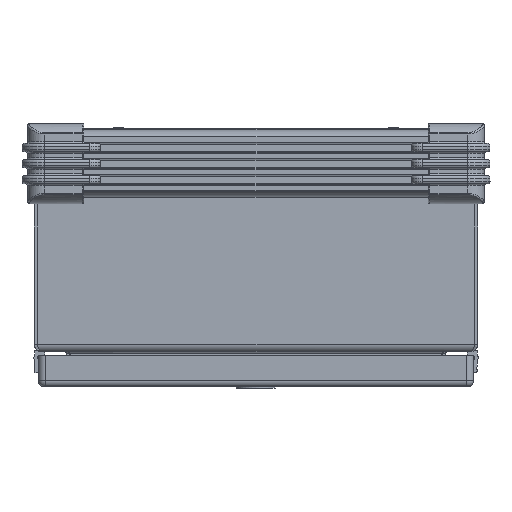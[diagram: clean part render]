
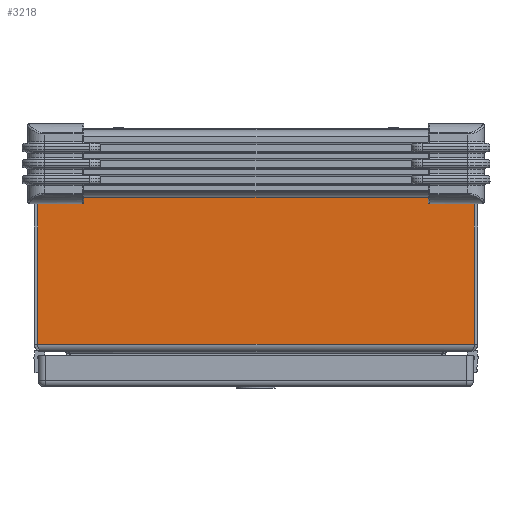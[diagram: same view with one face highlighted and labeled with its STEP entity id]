
A CAD part, left-side view. The second image highlights one B-rep face of the part: STEP entity #3218.
In plain terms, the highlighted planar face has unit normal (-1, 0, 0) as drawn and (1, 0, 0) by its records, which use the part's own axes.
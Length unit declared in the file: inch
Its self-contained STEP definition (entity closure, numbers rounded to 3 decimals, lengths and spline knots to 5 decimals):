
#373 = ORIENTED_EDGE ( 'NONE', *, *, #15365, .F. ) ;
#776 = DIRECTION ( 'NONE',  ( 0., 0., -1. ) ) ;
#1758 = LINE ( 'NONE', #28057, #6540 ) ;
#2155 = DIRECTION ( 'NONE',  ( 0., 0., -1. ) ) ;
#2321 = CARTESIAN_POINT ( 'NONE',  ( 6.8905, 2.8535, 0.553 ) ) ;
#2351 = ORIENTED_EDGE ( 'NONE', *, *, #33614, .F. ) ;
#2878 = DIRECTION ( 'NONE',  ( 0., 0., -1. ) ) ;
#3041 = DIRECTION ( 'NONE',  ( 1., 0., 0. ) ) ;
#3218 = ADVANCED_FACE ( 'NONE', ( #43581, #28547, #19864 ), #38206, .T. ) ;
#4603 = ORIENTED_EDGE ( 'NONE', *, *, #20015, .F. ) ;
#5003 = AXIS2_PLACEMENT_3D ( 'NONE', #17462, #3041, #2155 ) ;
#5142 = VERTEX_POINT ( 'NONE', #37996 ) ;
#5578 = DIRECTION ( 'NONE',  ( 0., 1., 0. ) ) ;
#5622 = VECTOR ( 'NONE', #5578, 39.37008 ) ;
#6387 = CARTESIAN_POINT ( 'NONE',  ( 6.8905, -4.84243, 4.564 ) ) ;
#6540 = VECTOR ( 'NONE', #49209, 39.37008 ) ;
#7130 = CARTESIAN_POINT ( 'NONE',  ( 6.8905, -73.8265, 4.564 ) ) ;
#8634 = CARTESIAN_POINT ( 'NONE',  ( 6.8905, 2.8535, 0.553 ) ) ;
#8872 = EDGE_CURVE ( 'NONE', #58646, #5142, #19849, .T. ) ;
#8950 = ORIENTED_EDGE ( 'NONE', *, *, #8872, .F. ) ;
#10084 = CARTESIAN_POINT ( 'NONE',  ( 6.8905, 4.84243, 0.132 ) ) ;
#10593 = CARTESIAN_POINT ( 'NONE',  ( 6.8905, -4.84243, 4.564 ) ) ;
#10613 = CARTESIAN_POINT ( 'NONE',  ( 6.8905, 4.84243, 4.564 ) ) ;
#10749 = CARTESIAN_POINT ( 'NONE',  ( 6.8905, -4.84243, 0.132 ) ) ;
#11113 = LINE ( 'NONE', #7130, #5622 ) ;
#13188 = VERTEX_POINT ( 'NONE', #10593 ) ;
#15096 = CIRCLE ( 'NONE', #36686, 0.109 ) ;
#15136 = DIRECTION ( 'NONE',  ( 1., 0., 0. ) ) ;
#15365 = EDGE_CURVE ( 'NONE', #13188, #25747, #11113, .T. ) ;
#16841 = ORIENTED_EDGE ( 'NONE', *, *, #21194, .F. ) ;
#17462 = CARTESIAN_POINT ( 'NONE',  ( 6.8905, -73.8265, 4.564 ) ) ;
#17509 = LINE ( 'NONE', #6387, #48308 ) ;
#19849 = CIRCLE ( 'NONE', #35001, 0.109 ) ;
#19864 = FACE_OUTER_BOUND ( 'NONE', #29188, .T. ) ;
#20015 = EDGE_CURVE ( 'NONE', #5142, #58646, #49436, .T. ) ;
#20289 = ORIENTED_EDGE ( 'NONE', *, *, #54318, .T. ) ;
#21194 = EDGE_CURVE ( 'NONE', #38786, #63642, #60408, .T. ) ;
#21681 = AXIS2_PLACEMENT_3D ( 'NONE', #2321, #23146, #33089 ) ;
#23146 = DIRECTION ( 'NONE',  ( 1., 0., 0. ) ) ;
#25734 = DIRECTION ( 'NONE',  ( 0., 0., -1. ) ) ;
#25747 = VERTEX_POINT ( 'NONE', #36757 ) ;
#28057 = CARTESIAN_POINT ( 'NONE',  ( 6.8905, -73.8265, 0.132 ) ) ;
#28547 = FACE_BOUND ( 'NONE', #38277, .T. ) ;
#29188 = EDGE_LOOP ( 'NONE', ( #48785, #373, #50507, #20289 ) ) ;
#32449 = AXIS2_PLACEMENT_3D ( 'NONE', #46327, #56908, #776 ) ;
#33089 = DIRECTION ( 'NONE',  ( 0., 0., -1. ) ) ;
#33614 = EDGE_CURVE ( 'NONE', #63642, #38786, #15096, .T. ) ;
#34401 = VERTEX_POINT ( 'NONE', #10084 ) ;
#35001 = AXIS2_PLACEMENT_3D ( 'NONE', #60166, #15136, #25734 ) ;
#36686 = AXIS2_PLACEMENT_3D ( 'NONE', #8634, #58764, #2878 ) ;
#36757 = CARTESIAN_POINT ( 'NONE',  ( 6.8905, 4.84243, 4.564 ) ) ;
#37996 = CARTESIAN_POINT ( 'NONE',  ( 6.8905, -2.8535, 0.662 ) ) ;
#38206 = PLANE ( 'NONE',  #5003 ) ;
#38277 = EDGE_LOOP ( 'NONE', ( #2351, #16841 ) ) ;
#38786 = VERTEX_POINT ( 'NONE', #60628 ) ;
#40363 = EDGE_CURVE ( 'NONE', #13188, #41642, #17509, .T. ) ;
#41642 = VERTEX_POINT ( 'NONE', #10749 ) ;
#43551 = EDGE_CURVE ( 'NONE', #34401, #25747, #56668, .T. ) ;
#43581 = FACE_BOUND ( 'NONE', #52274, .T. ) ;
#46327 = CARTESIAN_POINT ( 'NONE',  ( 6.8905, -2.8535, 0.553 ) ) ;
#46418 = VECTOR ( 'NONE', #61139, 39.37008 ) ;
#48308 = VECTOR ( 'NONE', #51397, 39.37008 ) ;
#48785 = ORIENTED_EDGE ( 'NONE', *, *, #43551, .T. ) ;
#49209 = DIRECTION ( 'NONE',  ( 0., 1., 0. ) ) ;
#49436 = CIRCLE ( 'NONE', #32449, 0.109 ) ;
#50507 = ORIENTED_EDGE ( 'NONE', *, *, #40363, .T. ) ;
#51397 = DIRECTION ( 'NONE',  ( 0., 0., -1. ) ) ;
#51606 = CARTESIAN_POINT ( 'NONE',  ( 6.8905, 2.8535, 0.662 ) ) ;
#52274 = EDGE_LOOP ( 'NONE', ( #4603, #8950 ) ) ;
#54318 = EDGE_CURVE ( 'NONE', #41642, #34401, #1758, .T. ) ;
#56574 = CARTESIAN_POINT ( 'NONE',  ( 6.8905, -2.8535, 0.444 ) ) ;
#56668 = LINE ( 'NONE', #10613, #46418 ) ;
#56908 = DIRECTION ( 'NONE',  ( 1., 0., 0. ) ) ;
#58646 = VERTEX_POINT ( 'NONE', #56574 ) ;
#58764 = DIRECTION ( 'NONE',  ( 1., 0., 0. ) ) ;
#60166 = CARTESIAN_POINT ( 'NONE',  ( 6.8905, -2.8535, 0.553 ) ) ;
#60408 = CIRCLE ( 'NONE', #21681, 0.109 ) ;
#60628 = CARTESIAN_POINT ( 'NONE',  ( 6.8905, 2.8535, 0.444 ) ) ;
#61139 = DIRECTION ( 'NONE',  ( 0., 0., 1. ) ) ;
#63642 = VERTEX_POINT ( 'NONE', #51606 ) ;
